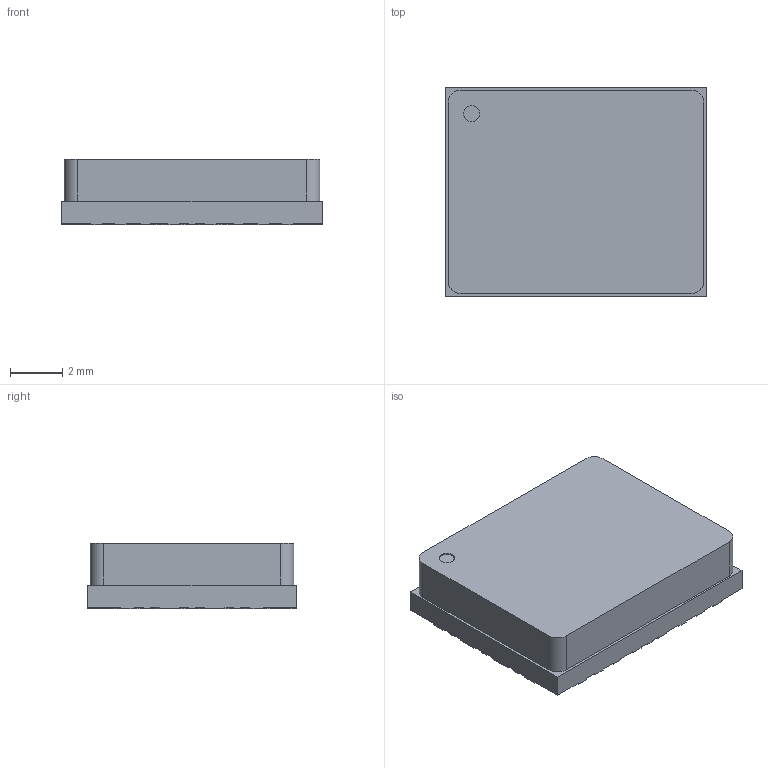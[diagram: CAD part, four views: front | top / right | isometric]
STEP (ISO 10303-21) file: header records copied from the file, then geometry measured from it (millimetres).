
FILE_DESCRIPTION (( 'STEP AP203' ), '1' );
FILE_NAME ('CQFN1008.STEP', '2026-09-22T10:07:48', ( 'Windows User' ), ( 'P R C' ), 'SwSTEP 2.0', 'SolidWorks 2013', '' );
FILE_SCHEMA (( 'CONFIG_CONTROL_DESIGN' ));
Length unit declared in the file: millimetre
Products named in the file (1): CQFN1008
Bounding box: 10 x 8 x 2.5 mm (x, y, z)
Volume: 192.8 mm3; surface area: 250.9 mm2
Topology: 1 solids, 1 shells, 189 faces, 552 edges, 368 vertices
Faces by surface type: plane 135, cylinder 54
Entity records: 6311 total; most frequent: CARTESIAN_POINT 1110, ORIENTED_EDGE 1104, DIRECTION 1040, EDGE_CURVE 552, VECTOR 444, LINE 444, VERTEX_POINT 368, AXIS2_PLACEMENT_3D 298
